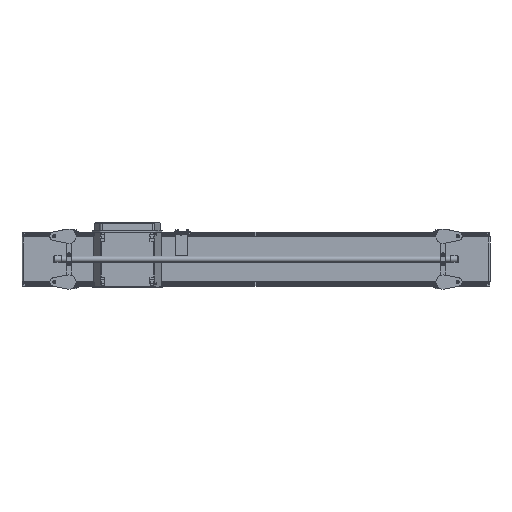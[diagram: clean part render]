
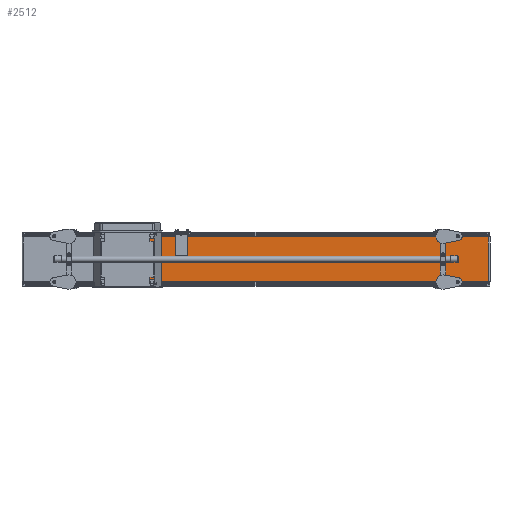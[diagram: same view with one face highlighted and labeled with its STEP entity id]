
A CAD part, front view. The second image highlights one B-rep face of the part: STEP entity #2512.
In plain terms, the highlighted planar face has unit normal (0, -1, 0).
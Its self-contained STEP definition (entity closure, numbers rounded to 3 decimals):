
#2512=ADVANCED_FACE('',(#12935),#12934,.F.);
#12934=PLANE('',#28063);
#12935=FACE_OUTER_BOUND('',#28064,.T.);
#28060=CARTESIAN_POINT('',(2004.,-12.2,-105.));
#28061=DIRECTION('',(0.,1.,0.));
#28062=DIRECTION('',(-1.,0.,0.));
#28063=AXIS2_PLACEMENT_3D('',#28060,#28061,#28062);
#28064=EDGE_LOOP('',(#39201,#39202,#39203,#39204));
#39201=ORIENTED_EDGE('',*,*,#46395,.F.);
#39202=ORIENTED_EDGE('',*,*,#46388,.F.);
#39203=ORIENTED_EDGE('',*,*,#46396,.T.);
#39204=ORIENTED_EDGE('',*,*,#46397,.F.);
#46388=EDGE_CURVE('',#64803,#64788,#64810,.T.);
#46395=EDGE_CURVE('',#64788,#64856,#64857,.T.);
#46396=EDGE_CURVE('',#64803,#64863,#64864,.T.);
#46397=EDGE_CURVE('',#64856,#64863,#64870,.T.);
#64788=VERTEX_POINT('',#89761);
#64803=VERTEX_POINT('',#89770);
#64810=LINE('',#89774,#89775);
#64856=VERTEX_POINT('',#89799);
#64857=LINE('',#89800,#89801);
#64863=VERTEX_POINT('',#89803);
#64864=LINE('',#89804,#89805);
#64870=LINE('',#89807,#89808);
#89761=CARTESIAN_POINT('',(414.,-12.2,95.));
#89770=CARTESIAN_POINT('',(414.,-12.2,-95.));
#89774=CARTESIAN_POINT('',(414.,-12.2,-95.));
#89775=VECTOR('',#89776,190.);
#89776=DIRECTION('',(0.,0.,1.));
#89799=CARTESIAN_POINT('',(1994.,-12.2,95.));
#89800=CARTESIAN_POINT('',(414.,-12.2,95.));
#89801=VECTOR('',#89802,1580.);
#89802=DIRECTION('',(1.,0.,0.));
#89803=CARTESIAN_POINT('',(1994.,-12.2,-95.));
#89804=CARTESIAN_POINT('',(414.,-12.2,-95.));
#89805=VECTOR('',#89806,1580.);
#89806=DIRECTION('',(1.,0.,0.));
#89807=CARTESIAN_POINT('',(1994.,-12.2,95.));
#89808=VECTOR('',#89809,190.);
#89809=DIRECTION('',(0.,0.,-1.));
